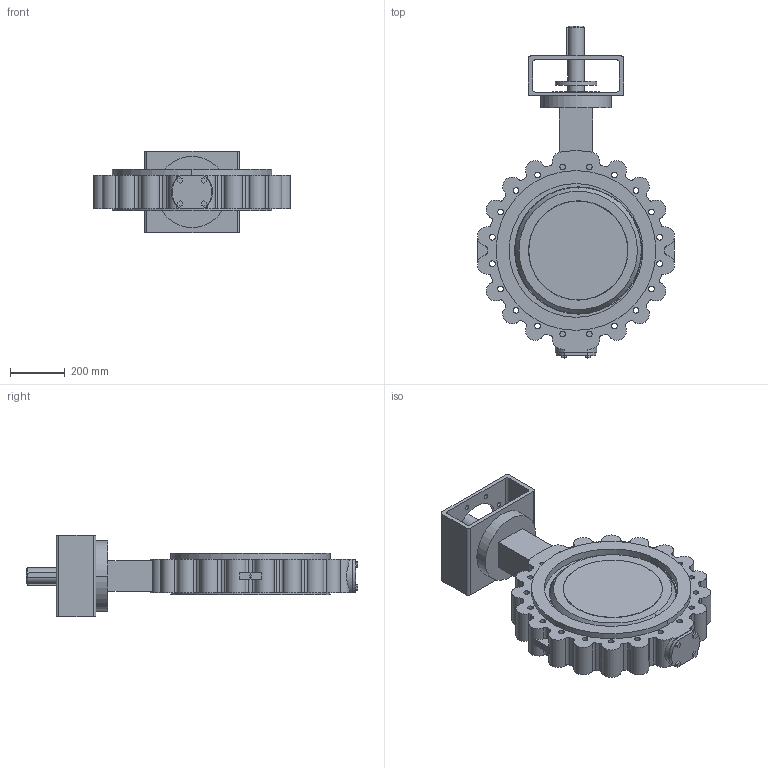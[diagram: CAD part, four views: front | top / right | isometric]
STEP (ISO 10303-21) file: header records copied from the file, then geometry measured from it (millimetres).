
FILE_DESCRIPTION( ( '' ), '1' );
FILE_NAME( 'F:/DE-SHS/TB/OR/04-Sonstiges/daten/files_3d/018_ZETRIX-PN10_freiesWellende/c000006355.stp', '2016-09-01T11:04:04', ( '' ), ( '' ), ' ', ' ', ' ' );
FILE_SCHEMA( ( 'CONFIG_CONTROL_DESIGN' ) );
Length unit declared in the file: millimetre
Products named in the file (1): 1
Bounding box: 721.87 x 1215.6 x 300 mm (x, y, z)
Volume: 47924517.8 mm3; surface area: 2422490 mm2
Topology: 1 solids, 1 shells, 332 faces, 902 edges, 602 vertices
Faces by surface type: cylinder 218, plane 106, sphere 4, cone 4
Entity records: 11578 total; most frequent: CARTESIAN_POINT 2607, DIRECTION 2002, ORIENTED_EDGE 1804, EDGE_CURVE 902, AXIS2_PLACEMENT_3D 795, VERTEX_POINT 602, CIRCLE 462, EDGE_LOOP 420
